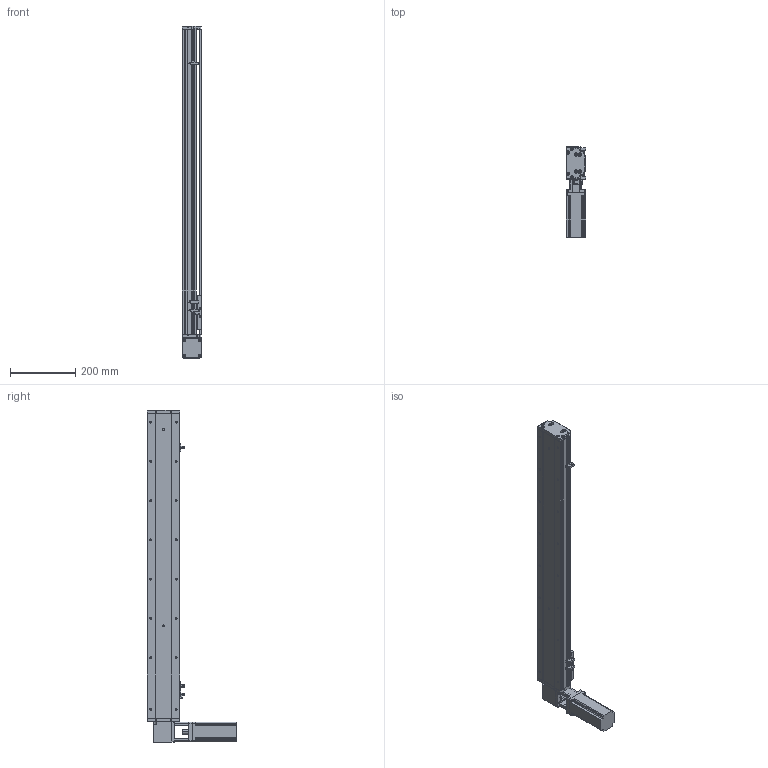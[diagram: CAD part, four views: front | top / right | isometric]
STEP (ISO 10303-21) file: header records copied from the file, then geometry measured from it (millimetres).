
FILE_DESCRIPTION (( 'STEP AP214' ), '1' );
FILE_NAME ('KSD100B-S750-MLT-CM.STEP', '2019-11-11T05:07:00', ( '微软用户' ), ( '微软中国' ), 'SwSTEP 2.0', 'SolidWorks 2014', '' );
FILE_SCHEMA (( 'AUTOMOTIVE_DESIGN' ));
Length unit declared in the file: millimetre
Products named in the file (12): 100宽安装板同步带带电机座400W,86; 100遵鎮湛假蚾啣1 ; 100宽防尘板750行程-同步带; U倰嫖萇EEㄜSX672; 覜茼え100遵圉猾敕; 台达ECMA－C20604AS伺服电机; 100宽马达安装板同步带右; 100宽同步带安装板半封闭; 100宽马达安装板同步带; 100遵傷啣肮祭湍; 100宽底板半封闭同步带750行程; KSD100B-S750-MLT-CM
Assembly tree (13 placements, depth 2):
  KSD100B-S750-MLT-CM
    100宽底板半封闭同步带750行程
    100遵傷啣肮祭湍
    100宽马达安装板同步带
    100宽同步带安装板半封闭
    100宽马达安装板同步带右
    台达ECMA－C20604AS伺服电机
    覜茼え100遵圉猾敕
    U倰嫖萇EEㄜSX672  x3
    100宽防尘板750行程-同步带
    100遵鎮湛假蚾啣1 
    100宽安装板同步带带电机座400W,86
Bounding box: 61 x 275 x 1015 mm (x, y, z)
Volume: 2414111.5 mm3; surface area: 768576.7 mm2
Topology: 14 solids, 14 shells, 1388 faces, 3885 edges, 2477 vertices
Faces by surface type: cylinder 698, plane 567, cone 123
Entity records: 47937 total; most frequent: CARTESIAN_POINT 9310, DIRECTION 6737, ORIENTED_EDGE 6430, EDGE_CURVE 3215, AXIS2_PLACEMENT_3D 2474, VERTEX_POINT 2101, VECTOR 1789, LINE 1789
